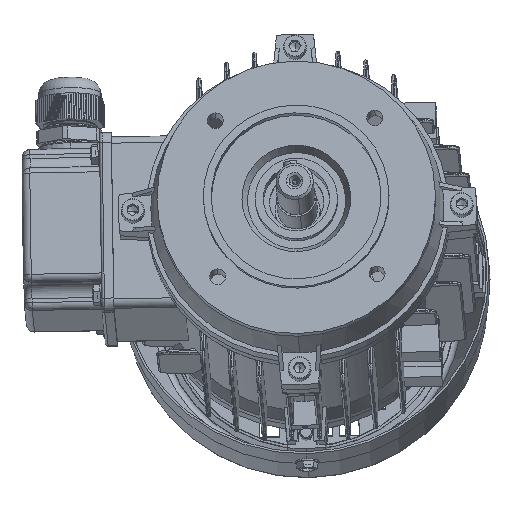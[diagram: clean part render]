
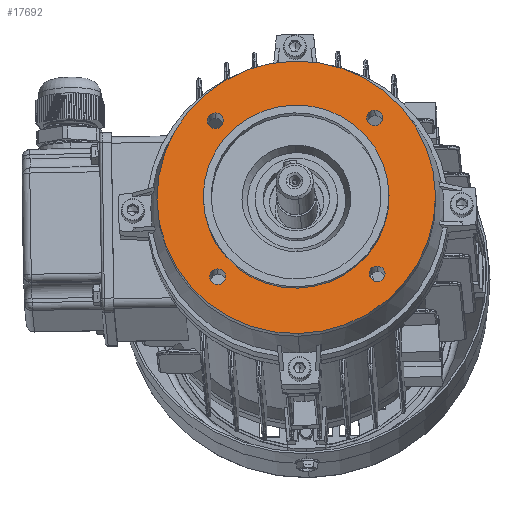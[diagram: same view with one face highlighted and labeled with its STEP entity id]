
A CAD part, left-side view. The second image highlights one B-rep face of the part: STEP entity #17692.
In plain terms, the highlighted planar face has unit normal (-0.978, 0.021, 0.207) as drawn and (-1, 0, 0) by its records, which use the part's own axes.
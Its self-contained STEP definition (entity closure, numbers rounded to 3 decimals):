
#826 = VERTEX_POINT ( 'NONE', #31322 ) ;
#874 = AXIS2_PLACEMENT_3D ( 'NONE', #10595, #85460, #9287 ) ;
#1124 = ORIENTED_EDGE ( 'NONE', *, *, #27140, .F. ) ;
#1260 = DIRECTION ( 'NONE',  ( 0., 0., 1. ) ) ;
#2020 = ORIENTED_EDGE ( 'NONE', *, *, #64902, .T. ) ;
#3347 = EDGE_CURVE ( 'NONE', #24698, #76770, #83025, .T. ) ;
#4115 = EDGE_CURVE ( 'NONE', #84814, #79124, #81796, .T. ) ;
#4442 = CARTESIAN_POINT ( 'NONE',  ( -12., 0., 0. ) ) ;
#6569 = CARTESIAN_POINT ( 'NONE',  ( -12., -30.052, -33.052 ) ) ;
#6843 = DIRECTION ( 'NONE',  ( -1., 0., 0. ) ) ;
#7167 = CARTESIAN_POINT ( 'NONE',  ( -12., -30.052, 30.052 ) ) ;
#8523 = DIRECTION ( 'NONE',  ( 0., 0., 1. ) ) ;
#9287 = DIRECTION ( 'NONE',  ( 0., 0., -1. ) ) ;
#10595 = CARTESIAN_POINT ( 'NONE',  ( -12., 35., 0. ) ) ;
#10856 = EDGE_CURVE ( 'NONE', #826, #55497, #11724, .T. ) ;
#11618 = ORIENTED_EDGE ( 'NONE', *, *, #25025, .F. ) ;
#11724 = CIRCLE ( 'NONE', #60698, 3. ) ;
#12306 = AXIS2_PLACEMENT_3D ( 'NONE', #63723, #94104, #33325 ) ;
#13596 = CARTESIAN_POINT ( 'NONE',  ( -12., -30.052, -27.052 ) ) ;
#14490 = DIRECTION ( 'NONE',  ( 0., 0., 1. ) ) ;
#16076 = VERTEX_POINT ( 'NONE', #21107 ) ;
#17396 = EDGE_CURVE ( 'NONE', #55497, #826, #41575, .T. ) ;
#17692 = ADVANCED_FACE ( 'NONE', ( #83445, #87021, #42819, #22413, #94194, #63141 ), #79442, .F. ) ;
#17728 = EDGE_LOOP ( 'NONE', ( #33630, #2020 ) ) ;
#18102 = AXIS2_PLACEMENT_3D ( 'NONE', #58054, #57418, #50081 ) ;
#19440 = ORIENTED_EDGE ( 'NONE', *, *, #21487, .F. ) ;
#20562 = CARTESIAN_POINT ( 'NONE',  ( -12., 0., -35. ) ) ;
#21107 = CARTESIAN_POINT ( 'NONE',  ( -12., 30.052, -27.052 ) ) ;
#21487 = EDGE_CURVE ( 'NONE', #16076, #88782, #25510, .T. ) ;
#22413 = FACE_BOUND ( 'NONE', #65404, .T. ) ;
#24193 = EDGE_LOOP ( 'NONE', ( #19440, #75946 ) ) ;
#24340 = AXIS2_PLACEMENT_3D ( 'NONE', #46795, #77538, #31747 ) ;
#24667 = CARTESIAN_POINT ( 'NONE',  ( -12., 0., 35. ) ) ;
#24698 = VERTEX_POINT ( 'NONE', #79300 ) ;
#25025 = EDGE_CURVE ( 'NONE', #35682, #51599, #76753, .T. ) ;
#25510 = CIRCLE ( 'NONE', #72142, 3. ) ;
#27140 = EDGE_CURVE ( 'NONE', #79124, #84814, #31575, .T. ) ;
#30383 = ORIENTED_EDGE ( 'NONE', *, *, #73230, .F. ) ;
#31218 = VERTEX_POINT ( 'NONE', #24667 ) ;
#31322 = CARTESIAN_POINT ( 'NONE',  ( -12., -30.052, 27.052 ) ) ;
#31575 = CIRCLE ( 'NONE', #96730, 3. ) ;
#31618 = CARTESIAN_POINT ( 'NONE',  ( -12., -30.052, -30.052 ) ) ;
#31747 = DIRECTION ( 'NONE',  ( 0., 0., 1. ) ) ;
#33325 = DIRECTION ( 'NONE',  ( 0., 0., 1. ) ) ;
#33630 = ORIENTED_EDGE ( 'NONE', *, *, #3347, .T. ) ;
#34386 = EDGE_LOOP ( 'NONE', ( #30383, #40630 ) ) ;
#34717 = VERTEX_POINT ( 'NONE', #20562 ) ;
#35682 = VERTEX_POINT ( 'NONE', #62412 ) ;
#36091 = DIRECTION ( 'NONE',  ( -1., 0., 0. ) ) ;
#37159 = DIRECTION ( 'NONE',  ( -1., 0., 0. ) ) ;
#40630 = ORIENTED_EDGE ( 'NONE', *, *, #41090, .F. ) ;
#41090 = EDGE_CURVE ( 'NONE', #34717, #31218, #89240, .T. ) ;
#41575 = CIRCLE ( 'NONE', #71868, 3. ) ;
#42819 = FACE_BOUND ( 'NONE', #24193, .T. ) ;
#43055 = DIRECTION ( 'NONE',  ( -1., 0., 0. ) ) ;
#44018 = AXIS2_PLACEMENT_3D ( 'NONE', #52126, #67123, #82151 ) ;
#46280 = CIRCLE ( 'NONE', #63056, 52.5 ) ;
#46795 = CARTESIAN_POINT ( 'NONE',  ( -12., 0., 0. ) ) ;
#47007 = DIRECTION ( 'NONE',  ( -1., 0., 0. ) ) ;
#47509 = AXIS2_PLACEMENT_3D ( 'NONE', #31618, #47007, #1260 ) ;
#47919 = DIRECTION ( 'NONE',  ( -1., 0., 0. ) ) ;
#48711 = AXIS2_PLACEMENT_3D ( 'NONE', #55635, #47919, #78999 ) ;
#49653 = CARTESIAN_POINT ( 'NONE',  ( -12., 30.052, 33.052 ) ) ;
#50081 = DIRECTION ( 'NONE',  ( 0., 0., 1. ) ) ;
#50246 = DIRECTION ( 'NONE',  ( 0., 0., 1. ) ) ;
#51599 = VERTEX_POINT ( 'NONE', #49653 ) ;
#52126 = CARTESIAN_POINT ( 'NONE',  ( -12., 30.052, -30.052 ) ) ;
#53890 = CIRCLE ( 'NONE', #12306, 3. ) ;
#53994 = ORIENTED_EDGE ( 'NONE', *, *, #10856, .F. ) ;
#55497 = VERTEX_POINT ( 'NONE', #63159 ) ;
#55635 = CARTESIAN_POINT ( 'NONE',  ( -12., 0., 0. ) ) ;
#57418 = DIRECTION ( 'NONE',  ( -1., 0., 0. ) ) ;
#57890 = DIRECTION ( 'NONE',  ( -1., 0., 0. ) ) ;
#57985 = EDGE_CURVE ( 'NONE', #88782, #16076, #83772, .T. ) ;
#58054 = CARTESIAN_POINT ( 'NONE',  ( -12., 0., 0. ) ) ;
#60698 = AXIS2_PLACEMENT_3D ( 'NONE', #7167, #6843, #14490 ) ;
#62412 = CARTESIAN_POINT ( 'NONE',  ( -12., 30.052, 27.052 ) ) ;
#63056 = AXIS2_PLACEMENT_3D ( 'NONE', #4442, #57890, #50246 ) ;
#63141 = FACE_OUTER_BOUND ( 'NONE', #17728, .T. ) ;
#63159 = CARTESIAN_POINT ( 'NONE',  ( -12., -30.052, 33.052 ) ) ;
#63723 = CARTESIAN_POINT ( 'NONE',  ( -12., 30.052, 30.052 ) ) ;
#64902 = EDGE_CURVE ( 'NONE', #76770, #24698, #46280, .T. ) ;
#65404 = EDGE_LOOP ( 'NONE', ( #78582, #11618 ) ) ;
#65844 = AXIS2_PLACEMENT_3D ( 'NONE', #97953, #37159, #90568 ) ;
#66118 = CARTESIAN_POINT ( 'NONE',  ( -12., -30.052, 30.052 ) ) ;
#67123 = DIRECTION ( 'NONE',  ( -1., 0., 0. ) ) ;
#69677 = CARTESIAN_POINT ( 'NONE',  ( -12., 30.052, -33.052 ) ) ;
#71868 = AXIS2_PLACEMENT_3D ( 'NONE', #66118, #36091, #82455 ) ;
#72142 = AXIS2_PLACEMENT_3D ( 'NONE', #76365, #84044, #8523 ) ;
#73230 = EDGE_CURVE ( 'NONE', #31218, #34717, #94429, .T. ) ;
#74448 = ORIENTED_EDGE ( 'NONE', *, *, #17396, .F. ) ;
#75946 = ORIENTED_EDGE ( 'NONE', *, *, #57985, .F. ) ;
#76365 = CARTESIAN_POINT ( 'NONE',  ( -12., 30.052, -30.052 ) ) ;
#76753 = CIRCLE ( 'NONE', #65844, 3. ) ;
#76770 = VERTEX_POINT ( 'NONE', #80520 ) ;
#77538 = DIRECTION ( 'NONE',  ( -1., 0., 0. ) ) ;
#78582 = ORIENTED_EDGE ( 'NONE', *, *, #96102, .F. ) ;
#78999 = DIRECTION ( 'NONE',  ( 0., 0., 1. ) ) ;
#79124 = VERTEX_POINT ( 'NONE', #6569 ) ;
#79300 = CARTESIAN_POINT ( 'NONE',  ( -12., 0., 52.5 ) ) ;
#79442 = PLANE ( 'NONE',  #874 ) ;
#80520 = CARTESIAN_POINT ( 'NONE',  ( -12., 0., -52.5 ) ) ;
#81796 = CIRCLE ( 'NONE', #47509, 3. ) ;
#82151 = DIRECTION ( 'NONE',  ( 0., 0., 1. ) ) ;
#82455 = DIRECTION ( 'NONE',  ( 0., 0., 1. ) ) ;
#83025 = CIRCLE ( 'NONE', #48711, 52.5 ) ;
#83445 = FACE_BOUND ( 'NONE', #96505, .T. ) ;
#83772 = CIRCLE ( 'NONE', #44018, 3. ) ;
#84044 = DIRECTION ( 'NONE',  ( -1., 0., 0. ) ) ;
#84814 = VERTEX_POINT ( 'NONE', #13596 ) ;
#85460 = DIRECTION ( 'NONE',  ( 1., 0., 0. ) ) ;
#87021 = FACE_BOUND ( 'NONE', #87093, .T. ) ;
#87093 = EDGE_LOOP ( 'NONE', ( #87193, #1124 ) ) ;
#87193 = ORIENTED_EDGE ( 'NONE', *, *, #4115, .F. ) ;
#88160 = DIRECTION ( 'NONE',  ( 0., 0., 1. ) ) ;
#88782 = VERTEX_POINT ( 'NONE', #69677 ) ;
#89240 = CIRCLE ( 'NONE', #18102, 35. ) ;
#90568 = DIRECTION ( 'NONE',  ( 0., 0., 1. ) ) ;
#94104 = DIRECTION ( 'NONE',  ( -1., 0., 0. ) ) ;
#94194 = FACE_BOUND ( 'NONE', #34386, .T. ) ;
#94429 = CIRCLE ( 'NONE', #24340, 35. ) ;
#95849 = CARTESIAN_POINT ( 'NONE',  ( -12., -30.052, -30.052 ) ) ;
#96102 = EDGE_CURVE ( 'NONE', #51599, #35682, #53890, .T. ) ;
#96505 = EDGE_LOOP ( 'NONE', ( #74448, #53994 ) ) ;
#96730 = AXIS2_PLACEMENT_3D ( 'NONE', #95849, #43055, #88160 ) ;
#97953 = CARTESIAN_POINT ( 'NONE',  ( -12., 30.052, 30.052 ) ) ;
